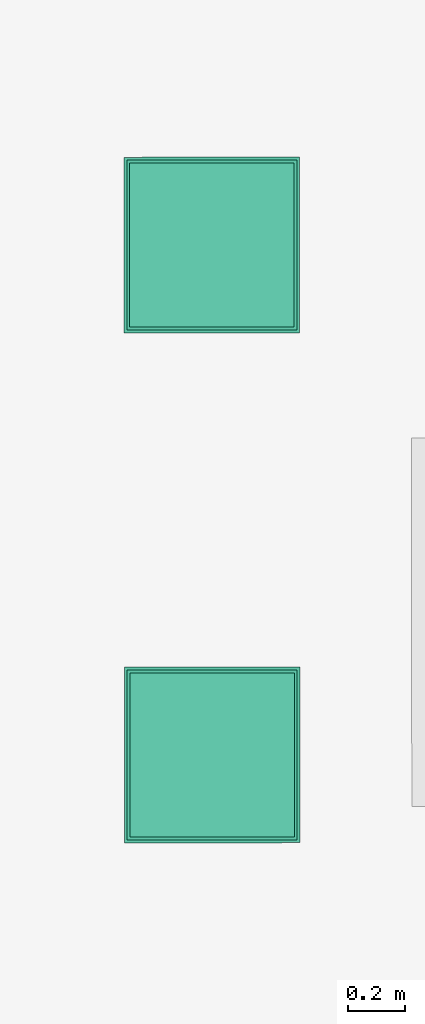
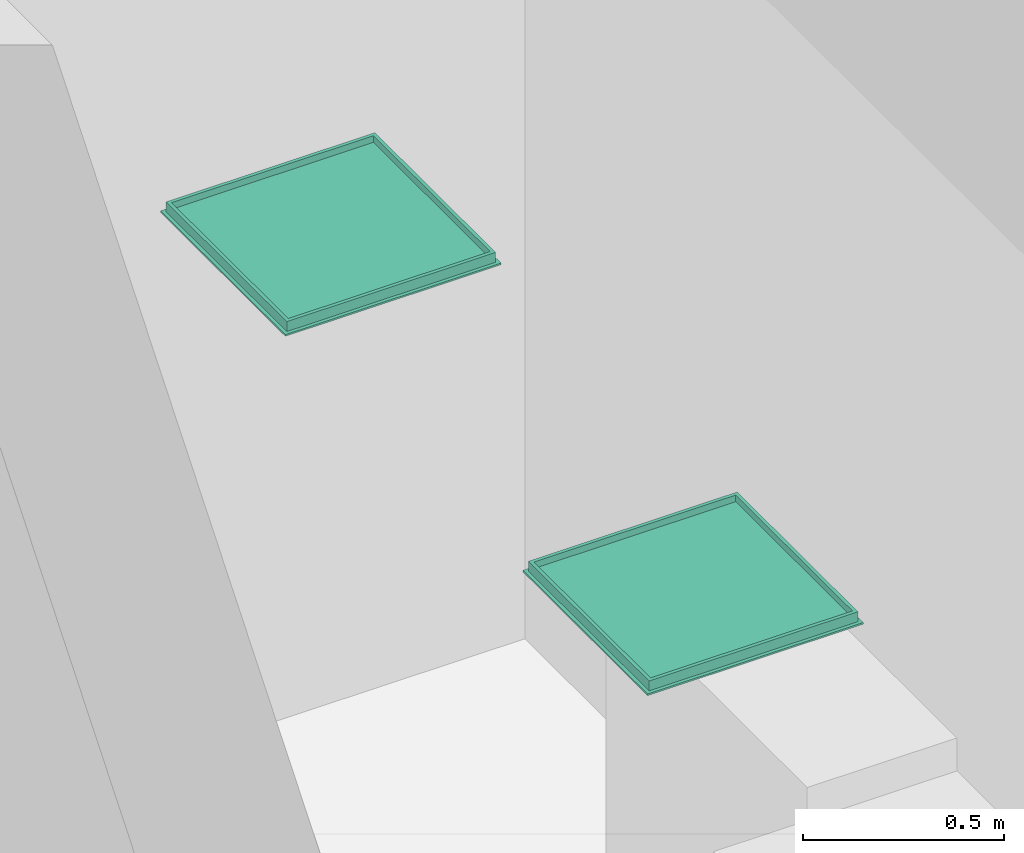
# One storey, part 75 of 128: 2 flow terminals.
"""IFC2X3 building model written with IfcOpenShell, lengths in metres."""

from ifc_helpers import new_model, entity, si_unit, converted_unit, derived_unit, direction, frame, origin, place, context, subcontext, project, spatial, faceted_brep, source, transform, mapped, material, type_object, type_shapes, element, save


model = new_model("IFC2X3")

# Units and contexts
model_context = context("Model", 3, precision=1e-05, world=origin(), true_north=direction((6.123031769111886e-17, 1.0)))
body_context = subcontext(model_context, "Body", "Model", "MODEL_VIEW")
ifc_project = project(units=[si_unit("LENGTHUNIT", "METRE"), si_unit("AREAUNIT", "SQUARE_METRE"), converted_unit("PLANEANGLEUNIT", "DEGREE", entity("IfcPlaneAngleMeasure", 0.017453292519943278), si_unit("PLANEANGLEUNIT", "RADIAN"), dimensions=[0, 0, 0, 0, 0, 0, 0]), derived_unit("THERMALTRANSMITTANCEUNIT", [(si_unit("MASSUNIT", "GRAM", prefix="KILO"), 1), (si_unit("THERMODYNAMICTEMPERATUREUNIT", "KELVIN"), -1), (si_unit("TIMEUNIT", "SECOND"), -3)])], contexts=[model_context])

# Site, building, storey
site_placement = place(None, origin())
site = spatial("IfcSite", under=ifc_project, at=site_placement, Name="Default", CompositionType="ELEMENT")
building_placement = place(site_placement, origin())
building = spatial("IfcBuilding", under=site, at=building_placement, CompositionType="ELEMENT")
storey_placement = place(building_placement, origin())
storey = spatial("IfcBuildingStorey", under=building, at=storey_placement, Name="00_RDC CAF", CompositionType="ELEMENT", Elevation=2.4982504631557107e-13)

# Flow terminals
ifc_material = material(Name="ARC - Eq Elec - Blanc")
light_fixture_type = type_object("IfcLightFixtureType", Name="Eq_Elec_Luminaire_Rectangulaire_LED_Encastre:Eq_Elec_Luminaire_Rectangulaire_LED_Encastre_600x600x30mm", PredefinedType="NOTDEFINED", material=ifc_material)
shared_shape = source(origin(), body_context, "Body", "Brep", [
    faceted_brep([(0.2900000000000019, 0.28999999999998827, -0.010000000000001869), (0.2900000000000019, -0.2900000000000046, -0.010000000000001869), (-0.2899999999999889, -0.2900000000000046, -0.010000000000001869), (-0.2899999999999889, 0.28999999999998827, -0.010000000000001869), (0.2900000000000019, 0.28999999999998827, 0.0), (-0.2899999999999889, 0.28999999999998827, 0.0), (-0.2899999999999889, -0.2900000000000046, 0.0), (0.2900000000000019, -0.2900000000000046, 0.0)], [[[0, 1, 2, 3]], [[4, 5, 6, 7]], [[5, 4, 0, 3]], [[6, 5, 3, 2]], [[7, 6, 2, 1]], [[4, 7, 1, 0]]]),
    faceted_brep([(0.30000000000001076, 0.29999999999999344, -0.03000000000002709), (0.30000000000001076, 0.29999999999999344, 0.0), (0.30000000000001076, -0.3000000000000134, 0.0), (0.30000000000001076, -0.30000000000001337, -0.03000000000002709), (0.2900000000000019, 0.2899999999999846, 0.004999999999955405), (0.2900000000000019, 0.2899999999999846, -0.03000000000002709), (0.2900000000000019, -0.2900000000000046, -0.03000000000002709), (0.2900000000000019, -0.2900000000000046, 0.004999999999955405), (-0.2999999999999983, -0.3000000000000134, 0.0), (-0.2999999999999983, -0.3000000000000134, -0.03000000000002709), (-0.2899999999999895, -0.2900000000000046, -0.03000000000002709), (-0.2899999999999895, -0.2900000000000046, 0.004999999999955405), (-0.2999999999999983, 0.29999999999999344, 0.0), (-0.2999999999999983, 0.2999999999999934, -0.03000000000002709), (-0.2899999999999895, 0.2899999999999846, -0.03000000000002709), (-0.2899999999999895, 0.2899999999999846, 0.004999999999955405), (0.31000000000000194, -0.31000000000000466, 0.0), (-0.3099999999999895, -0.31000000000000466, 0.0), (-0.3099999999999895, 0.3099999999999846, 0.0), (0.31000000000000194, 0.3099999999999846, 0.0), (0.31000000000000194, 0.3099999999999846, 0.004999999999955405), (0.31000000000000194, -0.31000000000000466, 0.004999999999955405), (-0.3099999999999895, -0.31000000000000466, 0.004999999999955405), (-0.3099999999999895, 0.3099999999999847, 0.004999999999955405)], [[[0, 1, 2, 3]], [[4, 5, 6, 7]], [[3, 2, 8, 9]], [[7, 6, 10, 11]], [[9, 8, 12, 13]], [[11, 10, 14, 15]], [[1, 12, 8, 2], [16, 17, 18, 19]], [[13, 12, 1, 0]], [[3, 9, 13, 0], [5, 14, 10, 6]], [[15, 14, 5, 4]], [[19, 20, 21, 16]], [[16, 21, 22, 17]], [[17, 22, 23, 18]], [[7, 11, 15, 4], [20, 23, 22, 21]], [[18, 23, 20, 19]]], outer=[[True], [True], [True], [True], [True], [True], [False, True], [True], [True, False], [True], [True], [True], [True], [False, True], [True]]),
])
type_shapes(light_fixture_type, [shared_shape])
for number, where, z_axis, x_axis in (
    (1, (32.27476164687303, 135.00705795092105, 2.5999999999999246), (0.0, 0.0, -1.0), (0.9999997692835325, 0.0006792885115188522, 0.0)),
    (2, (32.275984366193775, 133.20705836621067, 2.5999999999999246), (0.0, 0.0, -1.0), (0.9999997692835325, 0.0006792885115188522, 0.0)),
):
    element("IfcFlowTerminal", number, at=place(storey_placement, frame(where, z_axis=z_axis, x_axis=x_axis)), inside=storey, type_object=light_fixture_type, material=ifc_material, Name="Eq_Elec_Luminaire_Rectangulaire_LED_Encastre:Eq_Elec_Luminaire_Rectangulaire_LED_Encastre_600x600x30mm", ObjectType="Eq_Elec_Luminaire_Rectangulaire_LED_Encastre:Eq_Elec_Luminaire_Rectangulaire_LED_Encastre_600x600x30mm", context=body_context, shape_type="MappedRepresentation", body=[
        mapped(shared_shape, transform((0.0, 0.0, 0.0), scale=1.0)),
    ])

save(model, "model.ifc")
